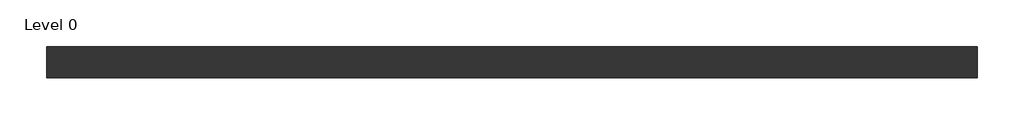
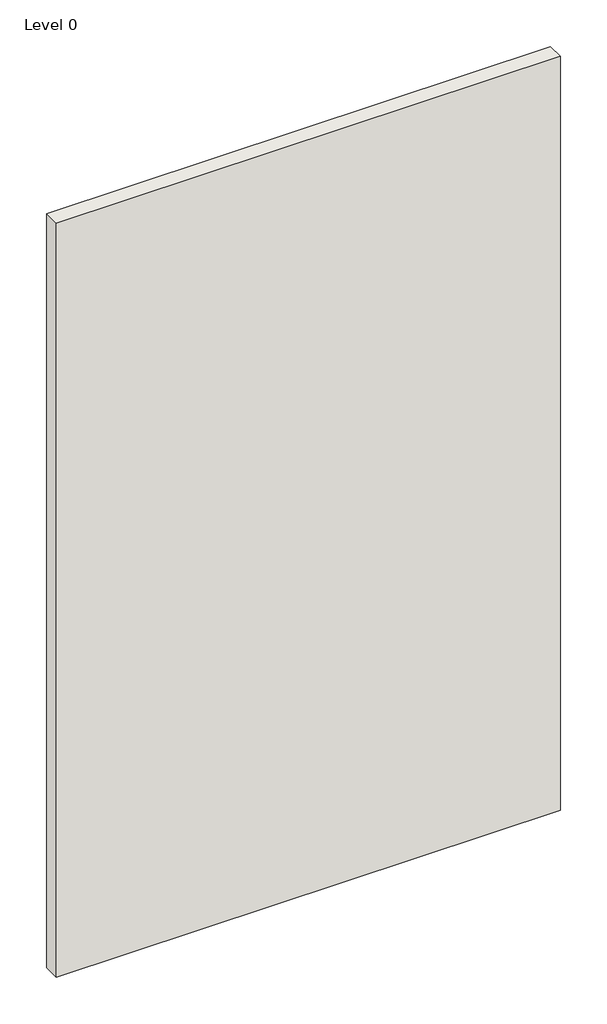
# One storey: 1 wall.
"""IFC4 building model written with IfcOpenShell, lengths in millimetres."""

from ifc_helpers import new_model, si_unit, origin, origin_with_axes, place, context, project, spatial, polyline, outline, extrude, element, save

model = new_model("IFC4")

# Units and contexts
model_context = context("Model", 3, world=origin())
ifc_project = project(units=[si_unit("LENGTHUNIT", "METRE", prefix="MILLI")], contexts=[model_context])

# Site, building, storey
site = spatial("IfcSite", under=ifc_project)
building = spatial("IfcBuilding", under=site)
storey = spatial("IfcBuildingStorey", under=building, Name="Level 0", Elevation=0.0)

# Wall
placement = place(None, origin())
element("IfcWall", 1, ObjectType="B216025(e) - GypLyner IWL", at=placement, inside=storey, context=model_context, shape_type="SweptSolid", body=[
    extrude(outline(polyline([(1155.997948, 503.0169953), (-1944.002052, 503.0169953), (-1944.002052, 607.5169953), (1155.997948, 607.5169953), (1155.997948, 503.0169953)])), origin_with_axes(), (0.0, 0.0, 1.0), 4900.0),
])

save(model, "model.ifc")
